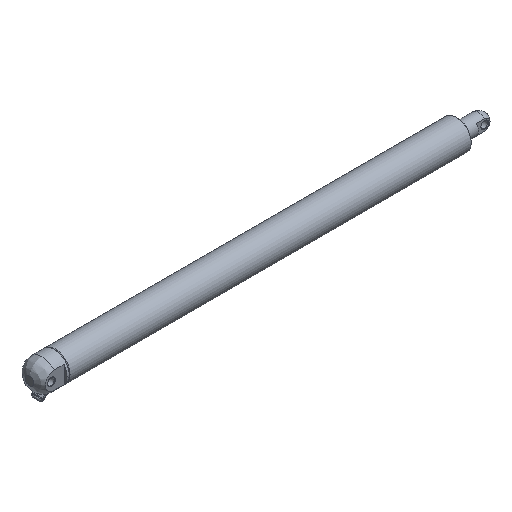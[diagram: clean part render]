
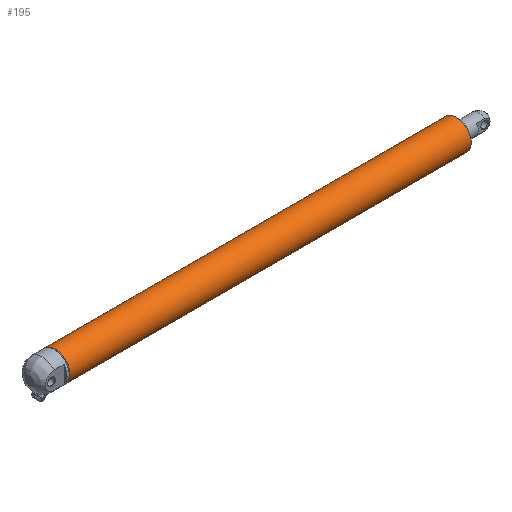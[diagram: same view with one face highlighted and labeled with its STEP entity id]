
A CAD part, isometric view. The second image highlights one B-rep face of the part: STEP entity #195.
In plain terms, the highlighted cylindrical face has radius 17.5 mm (diameter 35 mm), a full revolution.
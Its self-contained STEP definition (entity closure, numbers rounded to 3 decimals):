
#195 = ADVANCED_FACE( '', ( #413, #414 ), #415, .T. );
#413 = FACE_OUTER_BOUND( '', #699, .T. );
#414 = FACE_OUTER_BOUND( '', #700, .T. );
#415 = CYLINDRICAL_SURFACE( '', #701, 17.5 );
#699 = EDGE_LOOP( '', ( #1174 ) );
#700 = EDGE_LOOP( '', ( #1175 ) );
#701 = AXIS2_PLACEMENT_3D( '', #1176, #1177, #1178 );
#1174 = ORIENTED_EDGE( '', *, *, #1234, .T. );
#1175 = ORIENTED_EDGE( '', *, *, #1341, .T. );
#1176 = CARTESIAN_POINT( '', ( 476., 0., 0. ) );
#1177 = DIRECTION( '', ( 1., 0., 0. ) );
#1178 = DIRECTION( '', ( 0., 0., 1. ) );
#1234 = EDGE_CURVE( '', #1435, #1435, #1436, .F. );
#1341 = EDGE_CURVE( '', #1603, #1603, #1604, .T. );
#1435 = VERTEX_POINT( '', #1762 );
#1436 = CIRCLE( '', #1763, 17.5 );
#1603 = VERTEX_POINT( '', #2113 );
#1604 = CIRCLE( '', #2114, 17.5 );
#1762 = CARTESIAN_POINT( '', ( 0.5, 0., 17.5 ) );
#1763 = AXIS2_PLACEMENT_3D( '', #2266, #2267, #2268 );
#2113 = CARTESIAN_POINT( '', ( 475.5, 0., 17.5 ) );
#2114 = AXIS2_PLACEMENT_3D( '', #2410, #2411, #2412 );
#2266 = CARTESIAN_POINT( '', ( 0.5, 0., 0. ) );
#2267 = DIRECTION( '', ( -1., 0., 0. ) );
#2268 = DIRECTION( '', ( 0., 0., 1. ) );
#2410 = CARTESIAN_POINT( '', ( 475.5, 0., 0. ) );
#2411 = DIRECTION( '', ( -1., 0., 0. ) );
#2412 = DIRECTION( '', ( 0., 0., 1. ) );
